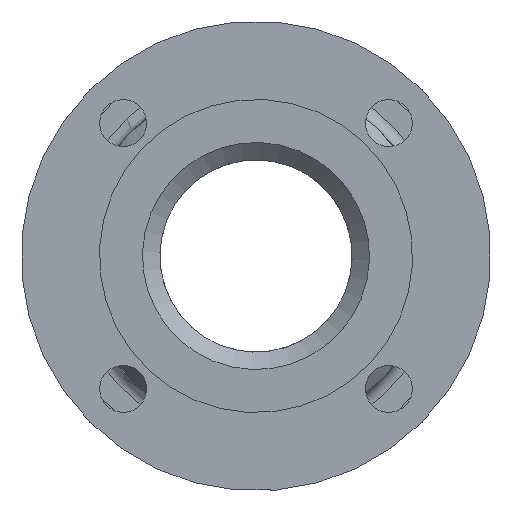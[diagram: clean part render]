
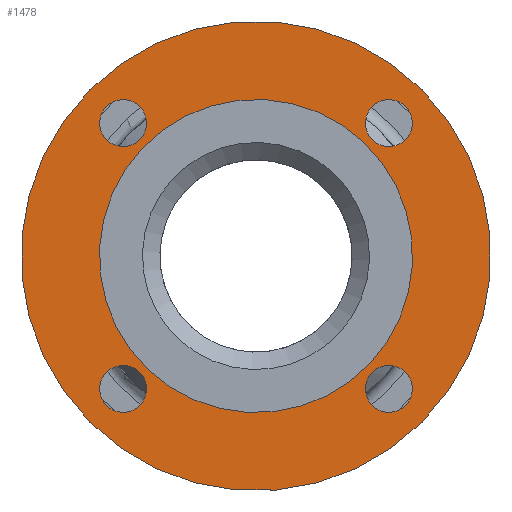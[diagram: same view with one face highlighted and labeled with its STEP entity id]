
A CAD part, front view. The second image highlights one B-rep face of the part: STEP entity #1478.
In plain terms, the highlighted planar face has unit normal (0, -1, 0).
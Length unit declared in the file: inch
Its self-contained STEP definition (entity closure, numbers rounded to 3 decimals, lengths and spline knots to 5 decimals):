
#61=PLANE('',#1628);
#139=FACE_BOUND('',#422,.T.);
#140=FACE_BOUND('',#423,.T.);
#141=FACE_BOUND('',#424,.T.);
#142=FACE_BOUND('',#425,.T.);
#143=FACE_BOUND('',#426,.T.);
#272=FACE_OUTER_BOUND('',#421,.T.);
#421=EDGE_LOOP('',(#1086));
#422=EDGE_LOOP('',(#1087));
#423=EDGE_LOOP('',(#1088));
#424=EDGE_LOOP('',(#1089));
#425=EDGE_LOOP('',(#1090));
#426=EDGE_LOOP('',(#1091));
#665=CIRCLE('',#1620,2.5);
#670=CIRCLE('',#1629,3.75);
#671=CIRCLE('',#1630,0.375);
#672=CIRCLE('',#1631,0.375);
#673=CIRCLE('',#1632,0.375);
#674=CIRCLE('',#1633,0.375);
#798=VERTEX_POINT('',#2415);
#803=VERTEX_POINT('',#2429);
#804=VERTEX_POINT('',#2431);
#805=VERTEX_POINT('',#2433);
#806=VERTEX_POINT('',#2435);
#807=VERTEX_POINT('',#2437);
#931=EDGE_CURVE('',#798,#798,#665,.T.);
#936=EDGE_CURVE('',#803,#803,#670,.T.);
#937=EDGE_CURVE('',#804,#804,#671,.T.);
#938=EDGE_CURVE('',#805,#805,#672,.T.);
#939=EDGE_CURVE('',#806,#806,#673,.T.);
#940=EDGE_CURVE('',#807,#807,#674,.T.);
#1086=ORIENTED_EDGE('',*,*,#936,.T.);
#1087=ORIENTED_EDGE('',*,*,#931,.T.);
#1088=ORIENTED_EDGE('',*,*,#937,.T.);
#1089=ORIENTED_EDGE('',*,*,#938,.T.);
#1090=ORIENTED_EDGE('',*,*,#939,.T.);
#1091=ORIENTED_EDGE('',*,*,#940,.T.);
#1478=ADVANCED_FACE('',(#272,#139,#140,#141,#142,#143),#61,.T.);
#1620=AXIS2_PLACEMENT_3D('',#2416,#1911,#1912);
#1628=AXIS2_PLACEMENT_3D('',#2428,#1927,#1928);
#1629=AXIS2_PLACEMENT_3D('',#2430,#1929,#1930);
#1630=AXIS2_PLACEMENT_3D('',#2432,#1931,#1932);
#1631=AXIS2_PLACEMENT_3D('',#2434,#1933,#1934);
#1632=AXIS2_PLACEMENT_3D('',#2436,#1935,#1936);
#1633=AXIS2_PLACEMENT_3D('',#2438,#1937,#1938);
#1911=DIRECTION('center_axis',(0.,1.,0.));
#1912=DIRECTION('ref_axis',(0.687,0.,0.727));
#1927=DIRECTION('center_axis',(0.,-1.,0.));
#1928=DIRECTION('ref_axis',(-0.707,0.,0.707));
#1929=DIRECTION('center_axis',(0.,-1.,0.));
#1930=DIRECTION('ref_axis',(-0.707,0.,0.707));
#1931=DIRECTION('center_axis',(0.,1.,0.));
#1932=DIRECTION('ref_axis',(-0.707,0.,0.707));
#1933=DIRECTION('center_axis',(0.,1.,0.));
#1934=DIRECTION('ref_axis',(0.707,0.,0.707));
#1935=DIRECTION('center_axis',(0.,1.,0.));
#1936=DIRECTION('ref_axis',(0.707,0.,-0.707));
#1937=DIRECTION('center_axis',(0.,1.,0.));
#1938=DIRECTION('ref_axis',(-0.707,0.,-0.707));
#2415=CARTESIAN_POINT('',(-1.71735,0.375,-1.81679));
#2416=CARTESIAN_POINT('Origin',(0.,0.375,
0.));
#2428=CARTESIAN_POINT('Origin',(0.,0.375,0.));
#2429=CARTESIAN_POINT('',(2.65165,0.375,-2.65165));
#2430=CARTESIAN_POINT('Origin',(0.,0.375,0.));
#2431=CARTESIAN_POINT('',(-2.38649,0.375,-1.85616));
#2432=CARTESIAN_POINT('Origin',(-2.12132,0.375,-2.12132));
#2433=CARTESIAN_POINT('',(-1.85616,0.375,2.38649));
#2434=CARTESIAN_POINT('Origin',(-2.12132,0.375,2.12132));
#2435=CARTESIAN_POINT('',(2.38649,0.375,1.85616));
#2436=CARTESIAN_POINT('Origin',(2.12132,0.375,2.12132));
#2437=CARTESIAN_POINT('',(1.85616,0.375,-2.38649));
#2438=CARTESIAN_POINT('Origin',(2.12132,0.375,-2.12132));
